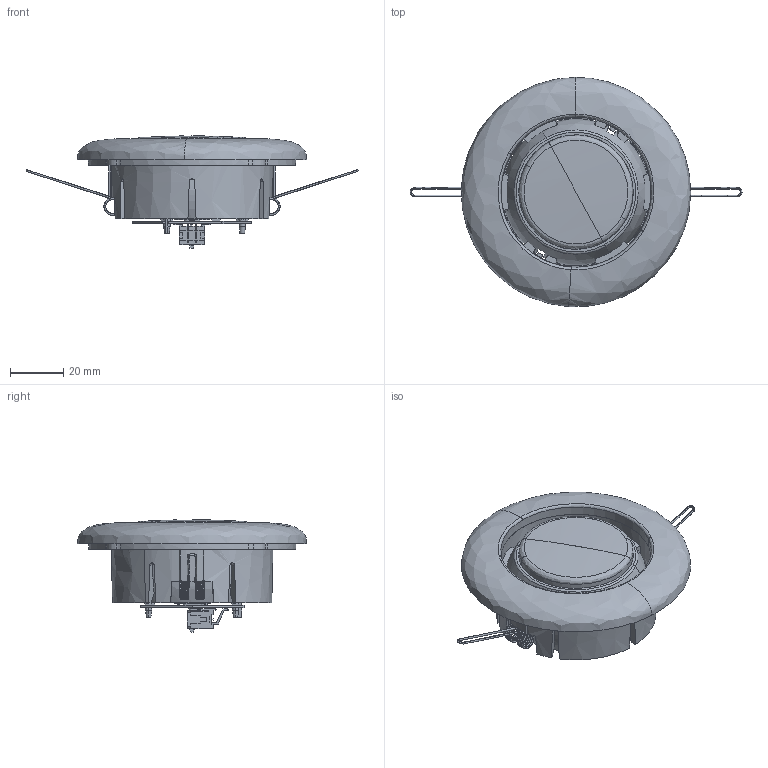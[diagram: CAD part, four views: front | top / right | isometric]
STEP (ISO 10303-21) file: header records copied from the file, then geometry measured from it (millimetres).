
FILE_DESCRIPTION(('CATIA V5 STEP Exchange','CAx-IF Rec.Pracs.--- Model Styling and Organization---1.5--- 2016-08-15','CAx-IF Rec.Pracs.---Supplemental Geometry---1.0---2011-11-01','CAx-IF Rec.Pracs.--- Composite Materials ---1.1---2010-07-15'),'2;1');
FILE_NAME('E:\tmp\ddx\2011210\HELLA_3D_data_LED_interior_lamp_343-790.stp','2022-01-18T07:05:04+00:00',('none'),('none'),'CATIA Version 5-6 Release 2020 SP3 HF9','CATIA V5 STEP AP214 Edition 3 v2','none');
FILE_SCHEMA(('AUTOMOTIVE_DESIGN { 1 0 10303 214 3 1 1 1 }'));
Length unit declared in the file: millimetre
Products named in the file (1): 10002114387_D10_001
Bounding box: 124.76 x 86.16 x 42.34 mm (x, y, z)
Volume: 92622 mm3; surface area: 41190.4 mm2
Topology: 1 solids, 8 shells, 1127 faces, 3232 edges, 2064 vertices
Faces by surface type: plane 575, cylinder 174, bspline 172, cone 163, torus 24, sphere 15, revolution 4
Entity records: 48932 total; most frequent: CARTESIAN_POINT 23587, ORIENTED_EDGE 6432, DIRECTION 3363, EDGE_CURVE 3216, VERTEX_POINT 2064, VECTOR 1307, LINE 1307, B_SPLINE_CURVE_WITH_KNOTS 1306
